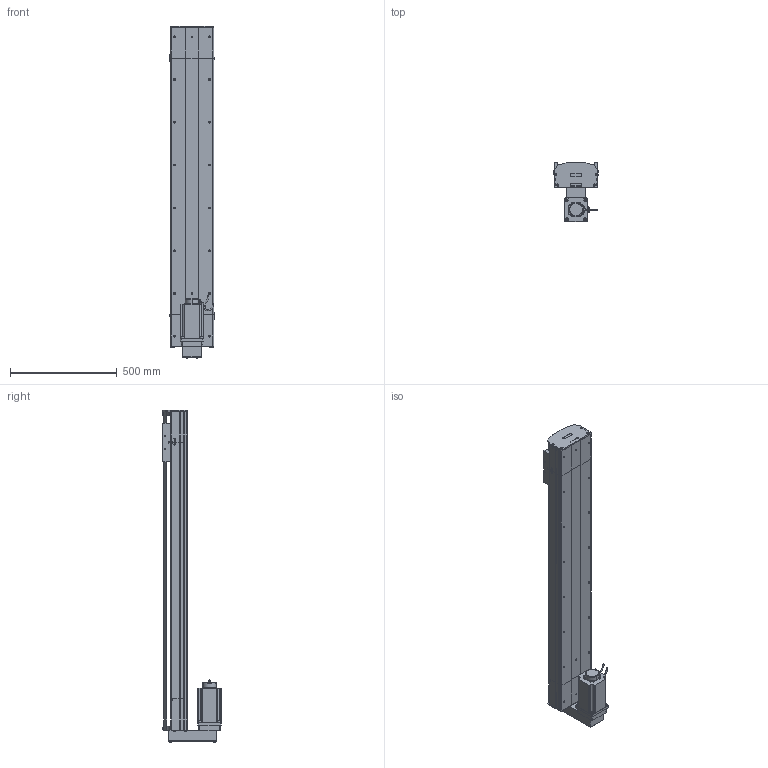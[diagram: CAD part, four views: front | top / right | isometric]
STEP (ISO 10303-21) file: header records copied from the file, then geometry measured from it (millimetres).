
FILE_DESCRIPTION (( 'STEP AP214' ), '1' );
FILE_NAME ('D20 TSH BM S1200.STEP', '2010-06-30T08:42:16', ( 'Conseil Régional Haute-Normandie' ), ( 'Conseil Régional Haute-Normandie' ), 'SwSTEP 2.0', 'SolidWorks 2010', '' );
FILE_SCHEMA (( 'AUTOMOTIVE_DESIGN' ));
Length unit declared in the file: millimetre
Products named in the file (35): corpl tail D20_Default; renvoi  BM_Default; vis M8 L12_Default; clavette; Conecteur_Default; tete d''axe haut D20; tete d''axe bas D20; head BM D20_Default; corps 110BLDC170A-630x; plaque de  bout head BR D20_Default; Plaque racord D20_Default; tail D20 S_Default; vis M5 L70_Default; couvercle head l D20_Default; couvercle D20 S1200_Default; Arbre+rail head D20; avant 110BLDC170A-630x; Moteur motionking 110BLDC170A-640x; Conecteur2_Default; codeur 110BLDC170A-630x; corpl head MD D20_Default; vis M5 L8 90°_Default; Chariot D20; vis M5 L12_Default; guide D20; chariot D20S_Default; vis M5 L25_Default; 2 vis M5 L12_Default; Arbre+rail tail D20; plaque de  bout tail D20_Default; couvercle tail D20_Default; rail + arbre  D20 S1200; corp D20 S1200_Default; course D20 L1200_Default; D20 TSH BM S1200
Assembly tree (59 placements, depth 4):
  D20 TSH BM S1200
    head BM D20_Default
      vis M5 L70_Default  x4
      vis M8 L12_Default  x4
      plaque de  bout head BR D20_Default
      corpl head MD D20_Default
      2 vis M5 L12_Default  x6
      renvoi  BM_Default
      vis M5 L12_Default  x2
      couvercle head l D20_Default
      Moteur motionking 110BLDC170A-640x
        codeur 110BLDC170A-630x
        Conecteur_Default
        clavette
        avant 110BLDC170A-630x
        corps 110BLDC170A-630x
        Conecteur2_Default
      Plaque racord D20_Default
      vis M5 L25_Default  x2
      Arbre+rail head D20
    chariot D20S_Default
      vis M5 L12_Default  x4
      guide D20  x2
      Chariot D20
    course D20 L1200_Default
      rail + arbre  D20 S1200
      corp D20 S1200_Default
      couvercle D20 S1200_Default
    tail D20 S_Default
      2 vis M5 L12_Default  x4
      vis M5 L8 90°_Default  x2
      couvercle tail D20_Default
      Arbre+rail tail D20
      tete d''axe bas D20
      vis M5 L25_Default  x2
      corpl tail D20_Default
      tete d''axe haut D20
      plaque de  bout tail D20_Default
Bounding box: 206 x 273.7 x 1551.7 mm (x, y, z)
Volume: 14524168 mm3; surface area: 3067040.4 mm2
Topology: 84 solids, 84 shells, 2346 faces, 5936 edges, 3835 vertices
Faces by surface type: plane 1386, cylinder 672, bspline 136, torus 77, cone 71, sphere 4
Entity records: 76935 total; most frequent: CARTESIAN_POINT 25321, ORIENTED_EDGE 9168, DIRECTION 8611, EDGE_CURVE 4584, VERTEX_POINT 3017, VECTOR 2997, LINE 2997, AXIS2_PLACEMENT_3D 2807
